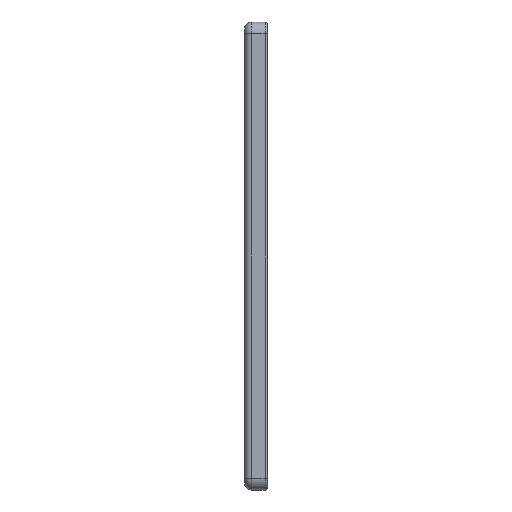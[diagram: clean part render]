
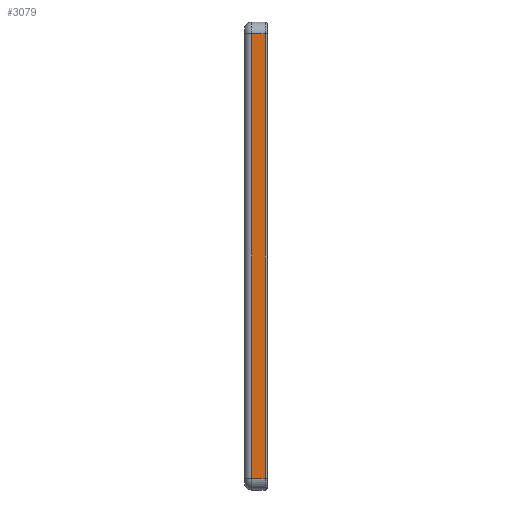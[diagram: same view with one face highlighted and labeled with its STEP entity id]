
A CAD part, left-side view. The second image highlights one B-rep face of the part: STEP entity #3079.
In plain terms, the highlighted planar face has unit normal (-1, 0, 0).
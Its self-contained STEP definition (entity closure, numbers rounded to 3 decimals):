
#1 = LINE ( 'NONE', #677, #25 ) ;
#25 = VECTOR ( 'NONE', #820, 1000. ) ;
#494 = DIRECTION ( 'NONE',  ( 0., -1., 0. ) ) ;
#508 = CARTESIAN_POINT ( 'NONE',  ( -150., 4.9, -95. ) ) ;
#677 = CARTESIAN_POINT ( 'NONE',  ( -150., 4.9, 95. ) ) ;
#745 = DIRECTION ( 'NONE',  ( 0., 0., -1. ) ) ;
#781 = CARTESIAN_POINT ( 'NONE',  ( -150., 1.9, 95. ) ) ;
#784 = DIRECTION ( 'NONE',  ( 0., 0., 1. ) ) ;
#816 = CARTESIAN_POINT ( 'NONE',  ( -150., -3.9, 95. ) ) ;
#820 = DIRECTION ( 'NONE',  ( 0., -1., 0. ) ) ;
#1435 = LINE ( 'NONE', #508, #1444 ) ;
#1444 = VECTOR ( 'NONE', #494, 1000. ) ;
#1787 = DIRECTION ( 'NONE',  ( 1., 0., 0. ) ) ;
#1801 = DIRECTION ( 'NONE',  ( 0., 0., -1. ) ) ;
#1811 = PLANE ( 'NONE',  #2618 ) ;
#1835 = CARTESIAN_POINT ( 'NONE',  ( -150., 4.9, 95. ) ) ;
#1851 = CARTESIAN_POINT ( 'NONE',  ( -150., 1.9, 95. ) ) ;
#1873 = CARTESIAN_POINT ( 'NONE',  ( -150., -3.9, 95. ) ) ;
#1874 = CARTESIAN_POINT ( 'NONE',  ( -150., -3.9, -95. ) ) ;
#1878 = CARTESIAN_POINT ( 'NONE',  ( -150., 1.9, -95. ) ) ;
#2297 = EDGE_CURVE ( 'NONE', #4082, #4066, #1, .T. ) ;
#2396 = EDGE_CURVE ( 'NONE', #4065, #4066, #4585, .T. ) ;
#2401 = EDGE_CURVE ( 'NONE', #4082, #4063, #4601, .T. ) ;
#2506 = EDGE_CURVE ( 'NONE', #4063, #4065, #1435, .T. ) ;
#2618 = AXIS2_PLACEMENT_3D ( 'NONE', #1835, #1787, #1801 ) ;
#3079 = ADVANCED_FACE ( 'NONE', ( #3585 ), #1811, .F. ) ;
#3134 = EDGE_LOOP ( 'NONE', ( #4416, #4155, #4156, #4157 ) ) ;
#3585 = FACE_OUTER_BOUND ( 'NONE', #3134, .T. ) ;
#4063 = VERTEX_POINT ( 'NONE', #1878 ) ;
#4065 = VERTEX_POINT ( 'NONE', #1874 ) ;
#4066 = VERTEX_POINT ( 'NONE', #1873 ) ;
#4082 = VERTEX_POINT ( 'NONE', #1851 ) ;
#4155 = ORIENTED_EDGE ( 'NONE', *, *, #2396, .T. ) ;
#4156 = ORIENTED_EDGE ( 'NONE', *, *, #2297, .F. ) ;
#4157 = ORIENTED_EDGE ( 'NONE', *, *, #2401, .T. ) ;
#4416 = ORIENTED_EDGE ( 'NONE', *, *, #2506, .T. ) ;
#4585 = LINE ( 'NONE', #816, #4600 ) ;
#4600 = VECTOR ( 'NONE', #784, 1000. ) ;
#4601 = LINE ( 'NONE', #781, #4607 ) ;
#4607 = VECTOR ( 'NONE', #745, 1000. ) ;
